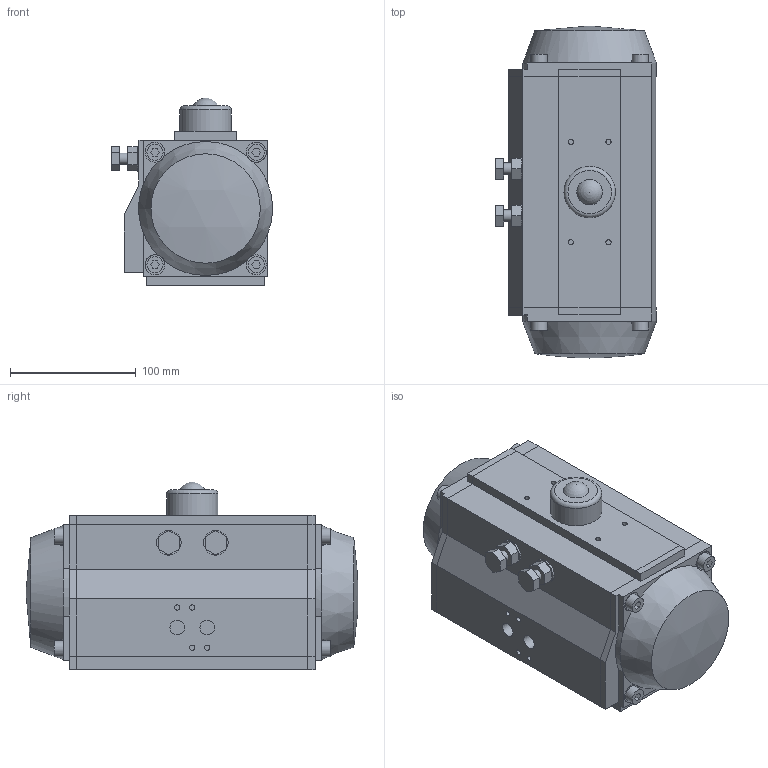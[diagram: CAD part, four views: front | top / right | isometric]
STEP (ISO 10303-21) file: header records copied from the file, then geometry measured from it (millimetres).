
FILE_DESCRIPTION((' '),'2;1');
FILE_NAME('N:\Technical Support\Private\Jomar Valve CAD\Actuation\JV\JV-90FusionCopy.stp','2017-05-26T09:40:41',(' '),(' '),' ','ACIS',' ');
FILE_SCHEMA(('CONFIG_CONTROL_DESIGN'));
Length unit declared in the file: inch
Products named in the file (26): N:\Technical Support\Private\Jomar Valve CAD\Actuation\JV\JV-90FusionCopy.stp; Body1; Body2; Body3; Body4; Body5; Body6; Body7; Body8; Body9; Body10; Body11; Body12; Body13; Body14; Body15; Body16; Body17; Body18; Body19; Body20; Body21; Body22; Body23; Body24; Body25
Assembly tree (25 placements, depth 2):
  N:\Technical Support\Private\Jomar Valve CAD\Actuation\JV\JV-90FusionCopy.stp
    Body1
    Body2
    Body3
    Body4
    Body5
    Body6
    Body7
    Body8
    Body9
    Body10
    Body11
    Body12
    Body13
    Body14
    Body15
    Body16
    Body17
    Body18
    Body19
    Body20
    Body21
    Body22
    Body23
    Body24
    Body25
Bounding box: 128.12 x 264.37 x 149.48 mm (x, y, z)
Volume: 3074264.4 mm3; surface area: 225276.2 mm2
Topology: 25 solids, 25 shells, 303 faces, 663 edges, 438 vertices
Faces by surface type: plane 158, bspline 103, cylinder 38, sphere 2, cone 1, torus 1
Full cylindrical faces by diameter (mm): 4.064 x2, 4.191 x4, 5.08 x1, 6.731 x4, 8.382 x4, 9.144 x1, 11.684 x2, 12.827 x4, 15.875 x4, 19.685 x1, 19.939 x1, 30.353 x1, 30.988 x1, 40.005 x2, 40.894 x1
Entity records: 11914 total; most frequent: CARTESIAN_POINT 2006, DIRECTION 1214, ORIENTED_EDGE 1200, EDGE_CURVE 600, VECTOR 472, LINE 472, VERTEX_POINT 424, EDGE_LOOP 382
